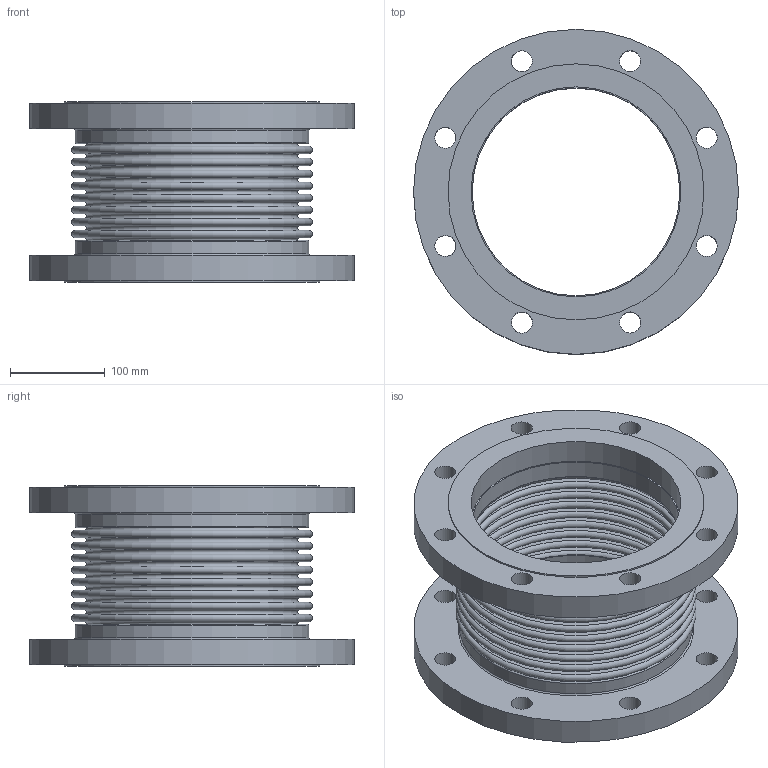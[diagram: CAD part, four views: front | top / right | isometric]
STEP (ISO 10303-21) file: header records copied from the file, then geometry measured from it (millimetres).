
FILE_DESCRIPTION(/* description */ ('EXPANSION JOINT,SINGLE, FLANGED ENDS,8 INCH NOMINAL','CAx-IF Rec.Pracs.---Representation and Presentation of Product Manufacturing Information (PMI)---4.0---2014-10-13'),/* implementation_level */ '2;1');
FILE_NAME(/* name */ 'US-08-8-300S-FLANGED ENDS.stp',/* time_stamp */ '2026-07-31T17:12:03-05:00',/* author */ ('Guadalupe'),/* organization */ (''),/* preprocessor_version */ 'ST-DEVELOPER v20.1',/* originating_system */ 'Autodesk Inventor 2026',/* authorisation */ '');
FILE_SCHEMA (('AP242_MANAGED_MODEL_BASED_3D_ENGINEERING_MIM_LF { 1 0 10303 442 2 1 4 }'));
Length unit declared in the file: inch
Products named in the file (3): 08-300S; 08-300S-02; 08-300S-01
Assembly tree (3 placements, depth 2):
  08-300S
    08-300S-02  x2
    08-300S-01
Bounding box: 342.9 x 342.9 x 190.5 mm (x, y, z)
Volume: 3472278.6 mm3; surface area: 902454.9 mm2
Topology: 5 solids, 5 shells, 112 faces, 198 edges, 132 vertices
Faces by surface type: plane 46, torus 38, cylinder 28
Full cylindrical faces by diameter (mm): 22.225 x16, 219.075 x2, 221.488 x2, 222.123 x2, 246.126 x2, 270.002 x2, 342.9 x2
Entity records: 2558 total; most frequent: DIRECTION 522, CARTESIAN_POINT 377, ORIENTED_EDGE 312, AXIS2_PLACEMENT_3D 253, EDGE_CURVE 156, EDGE_LOOP 152, CIRCLE 140, VERTEX_POINT 104
